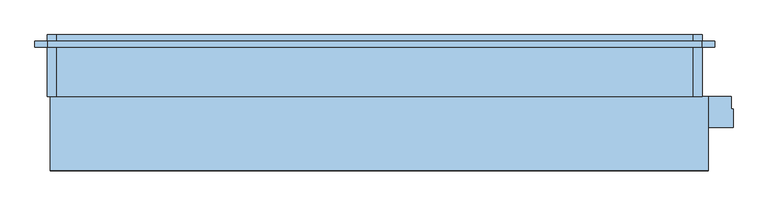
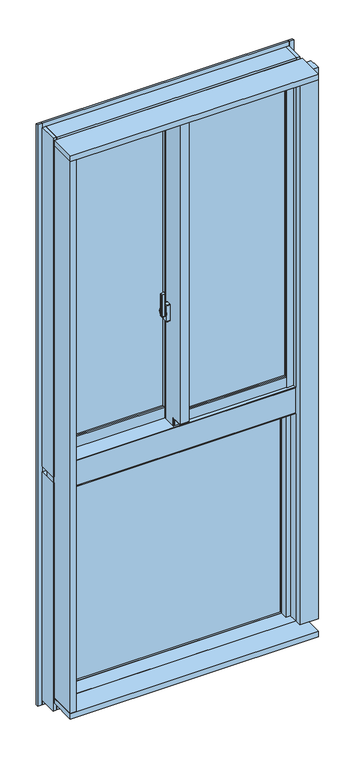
"""IFC4 building model written with IfcOpenShell, lengths in millimetres: window geometry, FNSⅡ100R_非防火_面付枠_段窓_分解無目 : FIX/框ドア."""

from ifc_helpers import new_model, si_unit, point, frame, frame_2d, origin, place, context, project, spatial, polyline, circle_curve, trimmed, segment, composite_curve, outline, extrude, faceted_brep, source, transform, mapped, element, save
from ifc_brep_helpers import plane_surface, cylinder_surface, revolved_surface, advanced_brep


def window_92b3f712(model_context):
    return source(origin(), model_context, "Body", "SolidModel", [
        extrude(outline(composite_curve([segment(polyline([(-39.0, 34.6), (-39.0, 26.4)]), True, "CONTINUOUS"), segment(trimmed(circle_curve(frame_2d((-41.0, 26.4)), 2.0), [point((-39.0, 26.4))], [point((-41.3606557, 24.4327869))], False, "CARTESIAN"), True, "CONTINUOUS"), segment(polyline([(-41.3606557, 24.4327869), (-52.3606557, 26.4494536)]), True, "CONTINUOUS"), segment(trimmed(circle_curve(frame_2d((-52.0, 28.4166667)), 2.0), [point((-52.3606557, 26.4494536))], [point((-54.0, 28.4166667))], False, "CARTESIAN"), True, "CONTINUOUS"), segment(polyline([(-54.0, 28.4166667), (-54.0, 32.5833333)]), True, "CONTINUOUS"), segment(trimmed(circle_curve(frame_2d((-52.0, 32.5833333)), 2.0), [point((-54.0, 32.5833333))], [point((-52.3606557, 34.5505464))], False, "CARTESIAN"), True, "CONTINUOUS"), segment(polyline([(-52.3606557, 34.5505464), (-41.3606557, 36.5672131)]), True, "CONTINUOUS"), segment(trimmed(circle_curve(frame_2d((-41.0, 34.6)), 2.0), [point((-41.3606557, 36.5672131))], [point((-39.0, 34.6))], False, "CARTESIAN"), True, "CONTINUOUS")], self_intersect=False)), frame((0.0, 0.0, 2450.0), z_axis=(0.0, 0.0, 1.0), x_axis=(1.0, 0.0, 0.0)), (0.0, 0.0, 1.0), 100.0),
        advanced_brep(
        [(-37.5, 38.8234285, 2481.7333311), (-45.5, 38.8234285, 2481.7333311), (-45.5, 38.4351999, 2480.2844424), (-39.0, 38.4351999, 2480.2844424), (-39.0, 36.6234666, 2473.5229616), (-37.5, 36.6234666, 2473.5229616), (-39.0, 36.6466117, 2439.3190372), (-45.5, 36.6466117, 2439.3190372), (-45.5, 36.907084, 2437.8418256), (-37.5, 36.907084, 2437.8418256), (-37.5, 35.4310745, 2446.2126915), (-39.0, 35.4310745, 2446.2126915)],
        [
            (0, 1),
            (1, 2),
            (2, 3),
            (3, 4),
            (4, 5),
            (5, 0),
            (6, 7),
            (7, 8),
            (8, 9),
            (9, 10),
            (10, 11),
            (11, 6),
            (0, 9, circle_curve(frame((-37.5, 33.0, 2460.0), z_axis=(-1.0, 0.0, 0.0), x_axis=(0.0, 0.25881904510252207, 0.965925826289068)), 22.5)),
            (8, 1, circle_curve(frame((-45.5, 33.0, 2460.0), z_axis=(1.0, 0.0, 0.0), x_axis=(0.0, 0.25881904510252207, 0.965925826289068)), 22.5)),
            (7, 2, circle_curve(frame((-45.5, 33.0, 2460.0), z_axis=(1.0, 0.0, 0.0), x_axis=(0.0, 0.25881904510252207, 0.965925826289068)), 21.0)),
            (6, 3, circle_curve(frame((-39.0, 33.0, 2460.0), z_axis=(1.0, 0.0, 0.0), x_axis=(0.0, 0.25881904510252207, 0.965925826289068)), 21.0)),
            (11, 4, circle_curve(frame((-39.0, 33.0, 2460.0), z_axis=(-1.0, 0.0, 0.0), x_axis=(0.0, -1.0, 0.0)), 14.0)),
            (5, 10, circle_curve(frame((-37.5, 33.0, 2460.0), z_axis=(1.0, 0.0, 0.0), x_axis=(0.0, -1.0, 0.0)), 14.0)),
        ],
        [
            plane_surface(frame((-43.5470497, 33.0, 2460.0), z_axis=(0.0, -0.965925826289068, 0.25881904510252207), x_axis=(0.0, 0.25881904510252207, 0.965925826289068))),
            plane_surface(frame((-43.5470497, 33.0, 2460.0), z_axis=(0.0, -0.9848077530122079, -0.17364817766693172), x_axis=(0.0, 0.17364817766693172, -0.9848077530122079))),
            cylinder_surface(frame((-43.5470497, 33.0, 2460.0), z_axis=(-1.0, 0.0, 0.0), x_axis=(0.0, 0.25881904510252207, 0.965925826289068)), 22.5),
            plane_surface(frame((-45.5, 33.0, 2460.0), z_axis=(-1.0, 0.0, 0.0), x_axis=(0.0, 0.25881904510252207, 0.965925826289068))),
            revolved_surface(polyline([(-45.5, 38.43519994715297, 2480.2844423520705), (-39.0, 38.43519994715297, 2480.2844423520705)]), (-43.5470497, 33.0, 2460.0), (-1.0, 0.0, 0.0)),
            plane_surface(frame((-39.0, 33.0, 2460.0), z_axis=(-1.0, 0.0, 0.0), x_axis=(0.0, 0.25881904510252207, 0.965925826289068))),
            plane_surface(frame((-37.5, 33.0, 2460.0), z_axis=(1.0, 0.0, 0.0), x_axis=(0.0, 0.25881904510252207, 0.965925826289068))),
            cylinder_surface(frame((-37.5, 33.0, 2460.0), z_axis=(-1.0, 0.0, 0.0), x_axis=(0.0, -1.0, 0.0)), 14.0),
        ],
        [
            (0, [[1, 2, 3, 4, 5, 6]]),
            (1, [[7, 8, 9, 10, 11, 12]]),
            (2, [[-1, 13, -9, 14]]),
            (3, [[-2, -14, -8, 15]]),
            (4, [[-3, -15, -7, 16]]),
            (5, [[-16, -12, 17, -4]]),
            (6, [[-13, -6, 18, -10]]),
            (7, [[-17, -11, -18, -5]]),
        ],
    ),
        extrude(outline(composite_curve([segment(trimmed(circle_curve(frame_2d((33.0, 2460.0)), 11.5), [point((44.5, 2460.0))], [point((21.5, 2460.0))], False, "CARTESIAN"), True, "CONTINUOUS"), segment(trimmed(circle_curve(frame_2d((33.0, 2460.0)), 11.5), [point((21.5, 2460.0))], [point((44.5, 2460.0))], False, "CARTESIAN"), True, "CONTINUOUS")], self_intersect=False)), frame((-37.5, 0.0, 0.0), z_axis=(1.0, 0.0, 0.0), x_axis=(0.0, 1.0, 0.0)), (0.0, 0.0, 1.0), 2.5),
        extrude(outline(composite_curve([segment(polyline([(24.0, 2497.5), (42.0, 2497.5)]), True, "CONTINUOUS"), segment(trimmed(circle_curve(frame_2d((42.0, 2495.5)), 2.0), [point((42.0, 2497.5))], [point((44.0, 2495.5))], False, "CARTESIAN"), True, "CONTINUOUS"), segment(polyline([(44.0, 2495.5), (44.0, 2424.5)]), True, "CONTINUOUS"), segment(trimmed(circle_curve(frame_2d((42.0, 2424.5)), 2.0), [point((44.0, 2424.5))], [point((42.0, 2422.5))], False, "CARTESIAN"), True, "CONTINUOUS"), segment(polyline([(42.0, 2422.5), (24.0, 2422.5)]), True, "CONTINUOUS"), segment(trimmed(circle_curve(frame_2d((24.0, 2424.5)), 2.0), [point((24.0, 2422.5))], [point((22.0, 2424.5))], False, "CARTESIAN"), True, "CONTINUOUS"), segment(polyline([(22.0, 2424.5), (22.0, 2495.5)]), True, "CONTINUOUS"), segment(trimmed(circle_curve(frame_2d((24.0, 2495.5)), 2.0), [point((22.0, 2495.5))], [point((24.0, 2497.5))], False, "CARTESIAN"), True, "CONTINUOUS")], self_intersect=False)), frame((-35.0, 0.0, 0.0), z_axis=(1.0, 0.0, 0.0), x_axis=(0.0, 1.0, 0.0)), (0.0, 0.0, 1.0), 15.0),
        extrude(outline(polyline([(20.0, 24.0), (468.0, 24.0), (468.0, 18.0), (20.0, 18.0), (20.0, 24.0)])), frame((0.0, 0.0, 2008.0), z_axis=(0.0, 0.0, 1.0), x_axis=(1.0, 0.0, 0.0)), (0.0, 0.0, 1.0), 1352.0),
        extrude(outline(polyline([(20.0, 42.0), (468.0, 42.0), (468.0, 36.0), (20.0, 36.0), (20.0, 42.0)])), frame((0.0, 0.0, 2008.0), z_axis=(0.0, 0.0, 1.0), x_axis=(1.0, 0.0, 0.0)), (0.0, 0.0, 1.0), 1352.0),
        extrude(outline(polyline([(-468.0, 82.0), (-20.0, 82.0), (-20.0, 76.0), (-468.0, 76.0), (-468.0, 82.0)])), frame((0.0, 0.0, 2008.0), z_axis=(0.0, 0.0, 1.0), x_axis=(1.0, 0.0, 0.0)), (0.0, 0.0, 1.0), 1352.0),
        extrude(outline(polyline([(-468.0, 100.0), (-20.0, 100.0), (-20.0, 94.0), (-468.0, 94.0), (-468.0, 100.0)])), frame((0.0, 0.0, 2008.0), z_axis=(0.0, 0.0, 1.0), x_axis=(1.0, 0.0, 0.0)), (0.0, 0.0, 1.0), 1352.0),
        faceted_brep([(-500.0, 108.0, 3400.0), (-468.0, 108.0, 3400.0), (-468.0, 108.0, 1920.0), (-500.0, 108.0, 1920.0), (-500.0, 79.0, 1920.0), (-500.0, 79.0, 3400.0), (-489.5, 79.0, 1960.0), (-468.0, 79.0, 1960.0), (-468.0, 66.0, 1960.0), (-489.5, 66.0, 1960.0), (-489.5, 79.0, 3400.0), (-489.5, 66.0, 3400.0), (-468.0, 66.0, 3400.0), (-468.0, 79.0, 1920.0)], [[[0, 1, 2, 3]], [[4, 5, 0, 3]], [[6, 7, 8, 9]], [[5, 10, 11, 12, 1, 0]], [[13, 4, 3, 2]], [[10, 5, 4, 13, 7, 6]], [[11, 10, 6, 9]], [[12, 11, 9, 8]], [[1, 12, 8, 7, 13, 2]]]),
        faceted_brep([(-20.0, 108.0, 1920.0), (20.0, 108.0, 1920.0), (20.0, 79.0, 1920.0), (-20.0, 79.0, 1920.0), (-1.8, 65.5, 3400.0), (-20.0, 65.5, 3400.0), (-20.0, 65.5, 1960.0), (-1.8, 65.5, 1960.0), (-1.8, 53.1, 3400.0), (-1.8, 53.1, 1960.0), (20.0, 53.1, 3400.0), (20.0, 53.1, 1960.0), (-20.0, 108.0, 3400.0), (20.0, 108.0, 3400.0), (-20.0, 79.0, 1960.0), (20.0, 79.0, 1960.0)], [[[0, 1, 2, 3]], [[4, 5, 6, 7]], [[8, 4, 7, 9]], [[10, 8, 9, 11]], [[12, 13, 1, 0]], [[14, 15, 11, 9, 7, 6]], [[5, 4, 8, 10, 13, 12]], [[13, 10, 11, 15, 2, 1]], [[5, 12, 0, 3, 14, 6]], [[15, 14, 3, 2]]]),
        faceted_brep([(-20.0, 53.1, 1960.0), (-15.0, 53.1, 1960.0), (-15.0, 0.0, 1960.0), (-20.0, 0.0, 1960.0), (15.0, 12.0, 1960.0), (20.0, 12.0, 1960.0), (20.0, 0.0, 1960.0), (15.0, 0.0, 1960.0), (-15.0, 53.1, 3400.0), (-15.0, 0.0, 3400.0), (-15.0, 0.0, 3371.0), (-15.0, -42.0, 3371.0), (-15.0, -42.0, 1996.5), (-15.0, 0.0, 1996.5), (-20.0, 53.1, 3400.0), (-20.0, 0.0, 3400.0), (20.0, 12.0, 3400.0), (15.0, 12.0, 3400.0), (15.0, 0.0, 3400.0), (20.0, 0.0, 3400.0), (-20.0, 0.0, 1996.5), (-20.0, -50.0, 1996.5), (-20.0, -50.0, 3371.0), (-20.0, 0.0, 3371.0), (20.0, -50.0, 1996.5), (20.0, -50.0, 3371.0), (20.0, 0.0, 3371.0), (20.0, 0.0, 1996.5), (15.0, -42.0, 3371.0), (15.0, -42.0, 1996.5), (15.0, 0.0, 1996.5), (15.0, 0.0, 3371.0)], [[[0, 1, 2, 3]], [[4, 5, 6, 7]], [[1, 8, 9, 10, 11, 12, 13, 2]], [[14, 8, 1, 0]], [[8, 14, 15, 9]], [[16, 17, 18, 19]], [[14, 0, 3, 20, 21, 22, 23, 15]], [[22, 21, 24, 25]], [[5, 16, 19, 26, 25, 24, 27, 6]], [[28, 29, 12, 11]], [[17, 16, 5, 4]], [[17, 4, 7, 30, 29, 28, 31, 18]], [[13, 20, 3, 2]], [[27, 30, 7, 6]], [[20, 13, 12, 29, 30, 27, 24, 21]], [[10, 23, 22, 25, 26, 31, 28, 11]], [[23, 10, 9, 15]], [[31, 26, 19, 18]]]),
        faceted_brep([(-15.0, 53.1, 1960.0), (20.0, 53.1, 1960.0), (20.0, 12.0, 1960.0), (15.0, 12.0, 1960.0), (15.0, 0.0, 1960.0), (-15.0, 0.0, 1960.0), (-15.0, 53.1, 3400.0), (-15.0, 0.0, 1996.5), (-15.0, -42.0, 1996.5), (-15.0, -42.0, 3371.0), (-15.0, 0.0, 3371.0), (-15.0, 0.0, 3400.0), (20.0, 53.1, 3400.0), (15.0, 0.0, 3371.0), (15.0, -42.0, 3371.0), (15.0, 12.0, 3400.0), (20.0, 12.0, 3400.0), (15.0, 0.0, 3400.0), (15.0, -42.0, 1996.5), (15.0, 0.0, 1996.5)], [[[0, 1, 2, 3, 4, 5]], [[6, 0, 5, 7, 8, 9, 10, 11]], [[6, 12, 1, 0]], [[13, 10, 9, 14]], [[15, 16, 12, 6, 11, 17]], [[9, 8, 18, 14]], [[12, 16, 2, 1]], [[19, 7, 5, 4]], [[7, 19, 18, 8]], [[10, 13, 17, 11]], [[3, 15, 17, 13, 14, 18, 19, 4]], [[16, 15, 3, 2]]]),
        extrude(outline(polyline([(468.0, 0.0), (468.0, 8.0), (489.5, 8.0), (489.5, 21.0), (497.0, 21.0), (497.0, 0.0), (468.0, 0.0)])), frame((0.0, 0.0, 1963.0), z_axis=(0.0, 0.0, 1.0), x_axis=(1.0, 0.0, 0.0)), (0.0, 0.0, 1.0), 1437.0),
        extrude(outline(polyline([(468.0, 50.0), (500.0, 50.0), (500.0, 21.0), (489.5, 21.0), (489.5, 8.0), (468.0, 8.0), (468.0, 50.0)])), frame((0.0, 0.0, 1960.0), z_axis=(0.0, 0.0, 1.0), x_axis=(1.0, 0.0, 0.0)), (0.0, 0.0, 1.0), 1440.0),
        extrude(outline(polyline([(-1.85, 65.5), (-1.85, 58.0), (-20.0, 58.0), (-20.0, 65.5), (-1.85, 65.5)])), frame((0.0, 0.0, 1960.0), z_axis=(0.0, 0.0, 1.0), x_axis=(1.0, 0.0, 0.0)), (0.0, 0.0, 1.0), 1440.0),
        extrude(outline(polyline([(-497.0, 79.0), (-489.5, 79.0), (-489.5, 66.0), (-468.0, 66.0), (-468.0, 58.0), (-497.0, 58.0), (-497.0, 79.0)])), frame((0.0, 0.0, 1960.0), z_axis=(0.0, 0.0, 1.0), x_axis=(1.0, 0.0, 0.0)), (0.0, 0.0, 1.0), 1440.0),
        extrude(outline(polyline([(2.0, 1963.0), (2.0, 2008.0), (10.0, 2008.0), (10.0, 1985.5), (21.0, 1985.5), (21.0, 1963.0), (2.0, 1963.0)])), frame((20.0, 0.0, 0.0), z_axis=(1.0, 0.0, 0.0), x_axis=(0.0, 1.0, 0.0)), (0.0, 0.0, 1.0), 448.0),
        extrude(outline(polyline([(50.0, 1960.0), (21.0, 1960.0), (21.0, 1985.5), (10.0, 1985.5), (10.0, 2008.0), (50.0, 2008.0), (50.0, 1960.0)])), frame((20.0, 0.0, 0.0), z_axis=(1.0, 0.0, 0.0), x_axis=(0.0, 1.0, 0.0)), (0.0, 0.0, 1.0), 448.0),
        extrude(outline(polyline([(60.0, 2008.0), (68.0, 2008.0), (68.0, 1985.5), (79.0, 1985.5), (79.0, 1960.0), (60.0, 1960.0), (60.0, 2008.0)])), frame((-468.0, 0.0, 0.0), z_axis=(1.0, 0.0, 0.0), x_axis=(0.0, 1.0, 0.0)), (0.0, 0.0, 1.0), 448.0),
        extrude(outline(polyline([(108.0, 1920.0), (79.0, 1920.0), (79.0, 1985.5), (68.0, 1985.5), (68.0, 2008.0), (108.0, 2008.0), (108.0, 1920.0)])), frame((-468.0, 0.0, 0.0), z_axis=(1.0, 0.0, 0.0), x_axis=(0.0, 1.0, 0.0)), (0.0, 0.0, 1.0), 448.0),
        extrude(outline(polyline([(23.0, 3380.5), (10.0, 3380.5), (10.0, 3360.0), (2.0, 3360.0), (2.0, 3400.0), (23.0, 3400.0), (23.0, 3380.5)])), frame((20.0, 0.0, 0.0), z_axis=(1.0, 0.0, 0.0), x_axis=(0.0, 1.0, 0.0)), (0.0, 0.0, 1.0), 448.0),
        extrude(outline(polyline([(50.0, 3400.0), (50.0, 3360.0), (10.0, 3360.0), (10.0, 3380.5), (23.0, 3380.5), (23.0, 3400.0), (50.0, 3400.0)])), frame((20.0, 0.0, 0.0), z_axis=(1.0, 0.0, 0.0), x_axis=(0.0, 1.0, 0.0)), (0.0, 0.0, 1.0), 448.0),
        extrude(outline(polyline([(81.0, 3380.5), (68.0, 3380.5), (68.0, 3360.0), (60.0, 3360.0), (60.0, 3400.0), (81.0, 3400.0), (81.0, 3380.5)])), frame((-468.0, 0.0, 0.0), z_axis=(1.0, 0.0, 0.0), x_axis=(0.0, 1.0, 0.0)), (0.0, 0.0, 1.0), 448.0),
        extrude(outline(polyline([(108.0, 3400.0), (108.0, 3360.0), (68.0, 3360.0), (68.0, 3380.5), (81.0, 3380.5), (81.0, 3400.0), (108.0, 3400.0)])), frame((-468.0, 0.0, 0.0), z_axis=(1.0, 0.0, 0.0), x_axis=(0.0, 1.0, 0.0)), (0.0, 0.0, 1.0), 448.0),
        extrude(outline(polyline([(0.0, 3371.0), (-50.0, 3371.0), (-50.0, 3372.0), (-1.0, 3372.0), (-1.0, 3400.0), (0.0, 3400.0), (0.0, 3371.0)])), frame((-20.0, 0.0, 0.0), z_axis=(1.0, 0.0, 0.0), x_axis=(0.0, 1.0, 0.0)), (0.0, 0.0, 1.0), 40.0),
        extrude(outline(polyline([(0.0, 1996.5), (0.0, 1960.0), (-1.0, 1960.0), (-1.0, 1995.5), (-50.0, 1995.5), (-50.0, 1996.5), (0.0, 1996.5)])), frame((-20.0, 0.0, 0.0), z_axis=(1.0, 0.0, 0.0), x_axis=(0.0, 1.0, 0.0)), (0.0, 0.0, 1.0), 40.0),
        extrude(outline(polyline([(-15.0, 80.3), (-15.0, 31.9), (-500.0, 31.9), (-500.0, 80.3), (-15.0, 80.3)])), frame((0.0, 0.0, 3400.0), z_axis=(0.0, 0.0, 1.0), x_axis=(1.0, 0.0, 0.0)), (0.0, 0.0, 1.0), 25.0),
        faceted_brep([(515.0, 80.3, 3425.0), (515.0, 10.0, 3425.0), (-515.0, 10.0, 3425.0), (-515.0, 80.3, 3425.0), (-15.0, 80.3, 3425.0), (-15.0, 31.9, 3425.0), (500.0, 31.9, 3425.0), (500.0, 80.3, 3425.0), (-515.0, 80.3, 3400.0), (-15.0, 80.3, 3400.0), (515.0, 80.3, 3400.0), (500.0, 80.3, 3400.0), (515.0, 110.0, 3435.0), (515.0, 110.0, 3400.0), (-515.0, 110.0, 3400.0), (-515.0, 110.0, 3435.0), (500.0, 31.9, 3400.0), (-15.0, 31.9, 3400.0), (515.0, 10.0, 3435.0), (-515.0, 10.0, 3435.0)], [[[0, 1, 2, 3, 4, 5, 6, 7]], [[3, 8, 9, 4]], [[10, 0, 7, 11]], [[12, 13, 14, 15]], [[13, 10, 11, 16, 17, 9, 8, 14]], [[18, 12, 15, 19]], [[1, 18, 19, 2]], [[13, 12, 18, 1, 0, 10]], [[14, 8, 3, 2, 19, 15]], [[6, 16, 11, 7]], [[9, 17, 5, 4]], [[16, 6, 5, 17]]]),
        extrude(outline(polyline([(31.9, 3400.0), (-10.0, 3400.0), (-10.0, 3403.0), (10.0, 3403.0), (10.0, 3425.0), (31.9, 3425.0), (31.9, 3400.0)])), frame((-500.0, 0.0, 0.0), z_axis=(1.0, 0.0, 0.0), x_axis=(0.0, 1.0, 0.0)), (0.0, 0.0, 1.0), 1000.0),
        faceted_brep([(500.0, 10.0, 3420.0), (500.0, 10.0, 3403.0), (503.0, 10.0, 3403.0), (503.0, 10.0, 1960.0), (515.0, 10.0, 1960.0), (515.0, 10.0, 3420.0), (500.0, 14.5, 1960.0), (500.0, -10.0, 1960.0), (500.0, -10.0, 3403.0), (500.0, 14.5, 3420.0), (515.0, 14.5, 1960.0), (503.0, -10.0, 1960.0), (515.0, 14.5, 3420.0), (503.0, -10.0, 3403.0)], [[[0, 1, 2, 3, 4, 5]], [[6, 7, 8, 1, 0, 9]], [[7, 6, 10, 4, 3, 11]], [[0, 5, 12, 9]], [[7, 11, 13, 8]], [[11, 3, 2, 13]], [[12, 5, 4, 10]], [[9, 12, 10, 6]], [[2, 1, 8, 13]]]),
        faceted_brep([(-500.0, -10.0, 1960.0), (-500.0, 76.0, 1960.0), (-500.0, 76.0, 3420.0), (-500.0, 10.0, 3420.0), (-500.0, 10.0, 3403.0), (-500.0, -10.0, 3403.0), (-515.0, 76.0, 3420.0), (-515.0, 76.0, 1960.0), (-515.0, 10.0, 1960.0), (-503.0, -10.0, 1960.0), (-503.0, 10.0, 1960.0), (-515.0, 10.0, 3420.0), (-503.0, 10.0, 3403.0), (-503.0, -10.0, 3403.0)], [[[0, 1, 2, 3, 4, 5]], [[6, 2, 1, 7]], [[8, 7, 1, 0, 9, 10]], [[11, 3, 2, 6]], [[8, 10, 12, 4, 3, 11]], [[10, 9, 13, 12]], [[9, 0, 5, 13]], [[8, 11, 6, 7]], [[4, 12, 13, 5]]]),
        faceted_brep([(-530.0, 110.0, 1900.0), (-515.0, 110.0, 1900.0), (-515.0, 10.0, 1900.0), (-530.0, 10.0, 1900.0), (-530.0, 10.0, 3435.0), (-530.0, 110.0, 3435.0), (-515.0, 110.0, 3435.0), (-515.0, 10.0, 3435.0), (-515.0, 110.0, 1909.0), (-515.0, 76.0, 1909.0), (-515.0, 76.0, 3400.0), (-515.0, 110.0, 3400.0), (-500.0, 110.0, 3400.0), (-500.0, 110.0, 1909.0), (-500.0, 76.0, 3400.0), (-500.0, 76.0, 1909.0)], [[[0, 1, 2, 3]], [[4, 5, 0, 3]], [[6, 7, 2, 1, 8, 9, 10, 11]], [[5, 4, 7, 6]], [[7, 4, 3, 2]], [[5, 6, 11, 12, 13, 8, 1, 0]], [[12, 11, 10, 14]], [[13, 15, 9, 8]], [[14, 10, 9, 15]], [[12, 14, 15, 13]]]),
        faceted_brep([(515.0, 10.0, 1900.0), (515.0, 110.0, 1900.0), (530.0, 110.0, 1900.0), (530.0, 10.0, 1900.0), (530.0, 10.0, 3435.0), (515.0, 10.0, 3435.0), (500.0, 14.5, 3400.0), (500.0, 110.0, 3400.0), (500.0, 110.0, 1909.0), (500.0, 14.5, 1909.0), (515.0, 14.5, 3400.0), (515.0, 14.5, 1909.0), (530.0, 110.0, 3435.0), (515.0, 110.0, 3435.0), (515.0, 110.0, 3400.0), (515.0, 110.0, 1909.0)], [[[0, 1, 2, 3]], [[4, 5, 0, 3]], [[6, 7, 8, 9]], [[10, 6, 9, 11]], [[5, 4, 12, 13]], [[6, 10, 14, 7]], [[9, 8, 15, 11]], [[12, 4, 3, 2]], [[13, 12, 2, 1, 15, 8, 7, 14]], [[5, 13, 14, 10, 11, 15, 1, 0]]]),
        faceted_brep([(515.0, 110.0, 1900.0), (515.0, 110.0, 1909.0), (515.0, 76.0, 1909.0), (515.0, 76.0, 1944.0), (515.0, 10.0, 1944.0), (515.0, 10.0, 1900.0), (-515.0, 110.0, 1900.0), (-515.0, 10.0, 1900.0), (-515.0, 10.0, 1944.0), (-515.0, 76.0, 1944.0), (-515.0, 76.0, 1909.0), (-515.0, 110.0, 1909.0), (500.0, 37.25, 1944.0), (500.0, 18.8, 1944.0), (-15.0, 18.8, 1944.0), (-15.0, 37.25, 1944.0), (500.0, 18.8, 1960.0), (500.0, 37.25, 1960.0), (-15.0, 18.8, 1960.0), (-15.0, 37.25, 1960.0)], [[[0, 1, 2, 3, 4, 5]], [[6, 7, 8, 9, 10, 11]], [[3, 2, 10, 9]], [[0, 5, 7, 6]], [[4, 3, 9, 8], [12, 13, 14, 15]], [[2, 1, 11, 10]], [[5, 4, 8, 7]], [[1, 0, 6, 11]], [[16, 13, 12, 17]], [[18, 19, 15, 14]], [[13, 16, 18, 14]], [[17, 12, 15, 19]], [[16, 17, 19, 18]]]),
        faceted_brep([(-503.0, 10.0, 1944.0), (-503.0, 10.0, 1957.0), (-503.0, -10.0, 1957.0), (-503.0, -10.0, 1960.0), (-503.0, 18.8, 1960.0), (-503.0, 18.8, 1944.0), (503.0, 10.0, 1944.0), (503.0, 10.0, 1957.0), (500.0, 14.5, 1960.0), (500.0, 14.5, 1944.0), (500.0, 18.8, 1944.0), (500.0, 18.8, 1960.0), (503.0, -10.0, 1960.0), (503.0, -10.0, 1957.0), (503.0, 14.5, 1944.0), (503.0, 14.5, 1960.0), (-15.0, 18.8, 1960.0), (-15.0, 76.0, 1960.0), (-500.0, 76.0, 1960.0), (-500.0, 18.8, 1960.0), (-500.0, 18.8, 1944.0), (-15.0, 18.8, 1944.0), (-500.0, 76.0, 1944.0), (-15.0, 76.0, 1944.0)], [[[0, 1, 2, 3, 4, 5]], [[6, 7, 1, 0]], [[8, 9, 10, 11]], [[12, 13, 7, 6, 14, 15]], [[7, 13, 2, 1]], [[13, 12, 3, 2]], [[4, 3, 12, 15, 8, 11, 16, 17, 18, 19]], [[5, 4, 19, 20]], [[11, 10, 21, 16]], [[0, 5, 20, 22, 23, 21, 10, 9, 14, 6]], [[9, 8, 15, 14]], [[17, 16, 21, 23]], [[18, 22, 20, 19]], [[17, 23, 22, 18]]]),
        extrude(outline(polyline([(-480.0, 75.6), (480.0, 75.6), (480.0, 69.6), (-480.0, 69.6), (-480.0, 75.6)])), frame((0.0, 0.0, 900.0), z_axis=(0.0, 0.0, 1.0), x_axis=(1.0, 0.0, 0.0)), (0.0, 0.0, 1.0), 920.0),
        extrude(outline(polyline([(-480.0, 93.6), (480.0, 93.6), (480.0, 87.6), (-480.0, 87.6), (-480.0, 93.6)])), frame((0.0, 0.0, 900.0), z_axis=(0.0, 0.0, 1.0), x_axis=(1.0, 0.0, 0.0)), (0.0, 0.0, 1.0), 920.0),
        faceted_brep([(-480.0, 60.0, 1820.0), (-515.0, 60.0, 1820.0), (-515.0, 60.0, 900.0), (-480.0, 60.0, 900.0), (-480.0, 110.0, 1820.0), (-480.0, 110.0, 900.0), (-515.0, 110.0, 1875.0), (-515.0, 10.0, 1875.0), (-515.0, 10.0, 840.0), (-515.0, 110.0, 840.0), (-515.0, 110.0, 900.0), (-515.0, 110.0, 1820.0), (-530.0, 110.0, 840.0), (-530.0, 10.0, 840.0), (-530.0, 10.0, 1875.0), (-530.0, 110.0, 1875.0)], [[[0, 1, 2, 3]], [[4, 0, 3, 5]], [[6, 7, 8, 9, 10, 2, 1, 11]], [[5, 3, 2, 10]], [[12, 9, 8, 13]], [[7, 14, 13, 8]], [[15, 6, 11, 4, 5, 10, 9, 12]], [[15, 14, 7, 6]], [[14, 15, 12, 13]], [[4, 11, 1, 0]]]),
        faceted_brep([(480.0, 60.0, 1820.0), (480.0, 110.0, 1820.0), (480.0, 110.0, 900.0), (480.0, 60.0, 900.0), (515.0, 60.0, 1820.0), (515.0, 60.0, 900.0), (530.0, 10.0, 1875.0), (515.0, 10.0, 1875.0), (515.0, 10.0, 840.0), (530.0, 10.0, 840.0), (530.0, 110.0, 1875.0), (530.0, 110.0, 840.0), (515.0, 110.0, 900.0), (515.0, 110.0, 840.0), (515.0, 110.0, 1875.0), (515.0, 110.0, 1820.0)], [[[0, 1, 2, 3]], [[4, 0, 3, 5]], [[6, 7, 8, 9]], [[10, 6, 9, 11]], [[5, 3, 2, 12]], [[11, 9, 8, 13]], [[14, 10, 11, 13, 12, 2, 1, 15]], [[7, 14, 15, 4, 5, 12, 13, 8]], [[10, 14, 7, 6]], [[15, 1, 0, 4]]]),
        extrude(outline(polyline([(500.0, -10.0), (500.0, 28.5), (480.0, 28.5), (480.0, 60.0), (515.0, 60.0), (515.0, 10.0), (503.0, 10.0), (503.0, -10.0), (500.0, -10.0)])), frame((0.0, 0.0, 900.0), z_axis=(0.0, 0.0, 1.0), x_axis=(1.0, 0.0, 0.0)), (0.0, 0.0, 1.0), 940.0),
        extrude(outline(polyline([(-515.0, 10.0), (-515.0, 60.0), (-480.0, 60.0), (-480.0, 28.5), (-500.0, 28.5), (-500.0, -10.0), (-503.0, -10.0), (-503.0, 10.0), (-515.0, 10.0)])), frame((0.0, 0.0, 900.0), z_axis=(0.0, 0.0, 1.0), x_axis=(1.0, 0.0, 0.0)), (0.0, 0.0, 1.0), 940.0),
        extrude(outline(polyline([(10.0, 884.0), (10.0, 897.0), (-10.0, 897.0), (-10.0, 900.0), (60.0, 900.0), (60.0, 884.0), (10.0, 884.0)])), frame((-503.0, 0.0, 0.0), z_axis=(1.0, 0.0, 0.0), x_axis=(0.0, 1.0, 0.0)), (0.0, 0.0, 1.0), 1006.0),
        extrude(outline(polyline([(110.0, 840.0), (10.0, 840.0), (10.0, 884.0), (60.0, 884.0), (60.0, 900.0), (110.0, 900.0), (110.0, 870.0), (91.0, 870.0), (91.0, 850.0), (110.0, 850.0), (110.0, 840.0)])), frame((-515.0, 0.0, 0.0), z_axis=(1.0, 0.0, 0.0), x_axis=(0.0, 1.0, 0.0)), (0.0, 0.0, 1.0), 1030.0),
        extrude(outline(polyline([(60.0, 1817.0), (26.0, 1817.0), (26.0, 1840.0), (-10.0, 1840.0), (-10.0, 1843.0), (10.0, 1843.0), (10.0, 1855.0), (60.0, 1855.0), (60.0, 1817.0)])), frame((-503.0, 0.0, 0.0), z_axis=(1.0, 0.0, 0.0), x_axis=(0.0, 1.0, 0.0)), (0.0, 0.0, 1.0), 1006.0),
        extrude(outline(polyline([(110.0, 1820.0), (60.0, 1820.0), (60.0, 1855.0), (10.0, 1855.0), (10.0, 1875.0), (110.0, 1875.0), (110.0, 1820.0)])), frame((-515.0, 0.0, 0.0), z_axis=(1.0, 0.0, 0.0), x_axis=(0.0, 1.0, 0.0)), (0.0, 0.0, 1.0), 1030.0),
        extrude(outline(polyline([(-110.0, 900.0), (-10.0, 900.0), (-10.0, 897.0), (10.0, 897.0), (10.0, 875.0), (-110.0, 875.0), (-110.0, 900.0)])), frame((-525.0, 0.0, 0.0), z_axis=(1.0, 0.0, 0.0), x_axis=(0.0, 1.0, 0.0)), (0.0, 0.0, 1.0), 1065.0),
        extrude(outline(polyline([(-530.0, 90.0), (-530.0, 100.0), (530.0, 100.0), (530.0, 90.0), (-530.0, 90.0)])), frame((0.0, 0.0, 820.0), z_axis=(0.0, 0.0, 1.0), x_axis=(1.0, 0.0, 0.0)), (0.0, 0.0, 1.0), 20.0),
        extrude(outline(polyline([(-503.0, 10.0), (-503.0, -10.0), (-500.0, -10.0), (-500.0, -110.0), (-525.0, -110.0), (-525.0, 10.0), (-503.0, 10.0)])), frame((0.0, 0.0, 900.0), z_axis=(0.0, 0.0, 1.0), x_axis=(1.0, 0.0, 0.0)), (0.0, 0.0, 1.0), 2500.0),
        extrude(outline(polyline([(-550.0, 90.0), (-550.0, 100.0), (-530.0, 100.0), (-530.0, 90.0), (-550.0, 90.0)])), frame((0.0, 0.0, 820.0), z_axis=(0.0, 0.0, 1.0), x_axis=(1.0, 0.0, 0.0)), (0.0, 0.0, 1.0), 2635.0),
        extrude(outline(polyline([(550.0, 90.0), (530.0, 90.0), (530.0, 100.0), (550.0, 100.0), (550.0, 90.0)])), frame((0.0, 0.0, 820.0), z_axis=(0.0, 0.0, 1.0), x_axis=(1.0, 0.0, 0.0)), (0.0, 0.0, 1.0), 2635.0),
        extrude(outline(polyline([(503.0, -10.0), (503.0, 10.0), (577.0, 10.0), (577.0, -10.0), (580.0, -10.0), (580.0, -40.0), (500.0, -40.0), (500.0, -10.0), (503.0, -10.0)])), frame((0.0, 0.0, 900.0), z_axis=(0.0, 0.0, 1.0), x_axis=(1.0, 0.0, 0.0)), (0.0, 0.0, 1.0), 2500.0),
        extrude(outline(polyline([(10.0, 3403.0), (-10.0, 3403.0), (-10.0, 3400.0), (-110.0, 3400.0), (-110.0, 3425.0), (10.0, 3425.0), (10.0, 3403.0)])), frame((-525.0, 0.0, 0.0), z_axis=(1.0, 0.0, 0.0), x_axis=(0.0, 1.0, 0.0)), (0.0, 0.0, 1.0), 1065.0),
        extrude(outline(polyline([(-530.0, 90.0), (-530.0, 100.0), (530.0, 100.0), (530.0, 90.0), (-530.0, 90.0)])), frame((0.0, 0.0, 1875.0), z_axis=(0.0, 0.0, 1.0), x_axis=(1.0, 0.0, 0.0)), (0.0, 0.0, 1.0), 25.0),
        extrude(outline(polyline([(-500.0, -10.0), (-500.0, 10.0), (500.0, 10.0), (500.0, -10.0), (-500.0, -10.0)])), frame((0.0, 0.0, 1843.0), z_axis=(0.0, 0.0, 1.0), x_axis=(1.0, 0.0, 0.0)), (0.0, 0.0, 1.0), 114.0),
        extrude(outline(polyline([(-530.0, 10.0), (-530.0, 53.5), (530.0, 53.5), (530.0, 10.0), (-530.0, 10.0)])), frame((0.0, 0.0, 1875.0), z_axis=(0.0, 0.0, 1.0), x_axis=(1.0, 0.0, 0.0)), (0.0, 0.0, 1.0), 25.0),
        extrude(outline(polyline([(-530.0, 90.0), (-530.0, 100.0), (530.0, 100.0), (530.0, 90.0), (-530.0, 90.0)])), frame((0.0, 0.0, 3435.0), z_axis=(0.0, 0.0, 1.0), x_axis=(1.0, 0.0, 0.0)), (0.0, 0.0, 1.0), 20.0),
    ])


if __name__ == "__main__":
    model = new_model("IFC4")
    model_context = context("Model", 3, world=origin())
    ifc_project = project(units=[si_unit("LENGTHUNIT", "METRE", prefix="MILLI")], contexts=[model_context])
    site = spatial("IfcSite", under=ifc_project)
    building = spatial("IfcBuilding", under=site)
    placement = place(None, origin())
    window_shape = window_92b3f712(model_context)
    element("IfcWindow", 1, ObjectType="FNSⅡ100R_非防火_面付枠_段窓_分解無目 : FIX/框ドア", at=placement, inside=building, context=model_context, shape_type="MappedRepresentation", body=[
        mapped(window_shape, transform((0.0, 0.0, 0.0), x_axis=(1.0, 0.0, 0.0), y_axis=(0.0, 1.0, 0.0), z_axis=(0.0, 0.0, 1.0))),
    ])
    save(model, "model.ifc")
